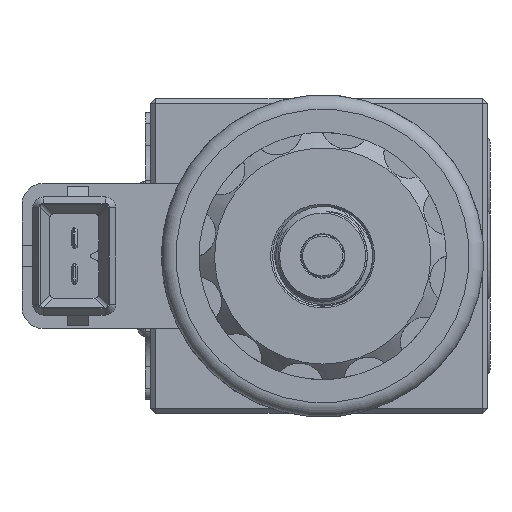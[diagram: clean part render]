
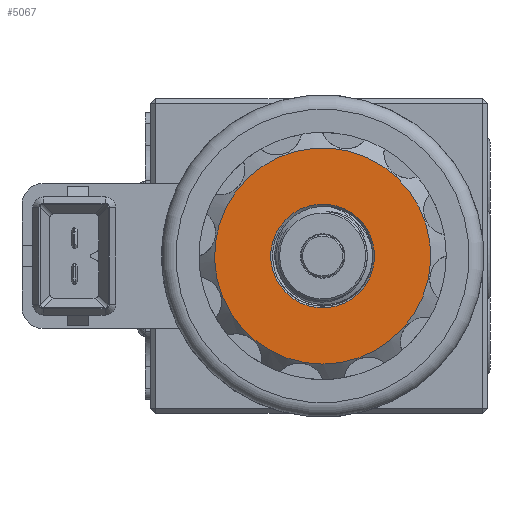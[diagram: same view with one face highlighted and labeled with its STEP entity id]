
A CAD part, left-side view. The second image highlights one B-rep face of the part: STEP entity #5067.
In plain terms, the highlighted planar face has unit normal (-1, 0, 0).
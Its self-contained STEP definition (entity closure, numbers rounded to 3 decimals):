
#1015=CIRCLE('',#26219,15.1);
#1029=CIRCLE('',#26234,7.25);
#1608=FACE_BOUND('',#8514,.T.);
#1609=FACE_BOUND('',#8515,.T.);
#5067=ADVANCED_FACE('',(#1608,#1609),#6181,.T.);
#6181=PLANE('',#26236);
#8514=EDGE_LOOP('',(#13829));
#8515=EDGE_LOOP('',(#13830));
#13829=ORIENTED_EDGE('',*,*,#19847,.F.);
#13830=ORIENTED_EDGE('',*,*,#19819,.T.);
#16909=VERTEX_POINT('',#39789);
#16936=VERTEX_POINT('',#39975);
#19819=EDGE_CURVE('',#16909,#16909,#1015,.T.);
#19847=EDGE_CURVE('',#16936,#16936,#1029,.T.);
#26219=AXIS2_PLACEMENT_3D('',#39788,#31310,#31311);
#26234=AXIS2_PLACEMENT_3D('',#39974,#31340,#31341);
#26236=AXIS2_PLACEMENT_3D('',#39977,#31344,#31345);
#31310=DIRECTION('',(-1.,0.,0.));
#31311=DIRECTION('',(0.,0.087,0.996));
#31340=DIRECTION('',(-1.,0.,0.));
#31341=DIRECTION('',(0.,0.087,0.996));
#31344=DIRECTION('',(-1.,0.,0.));
#31345=DIRECTION('',(0.,0.087,0.996));
#39788=CARTESIAN_POINT('',(34.226,171.761,0.));
#39789=CARTESIAN_POINT('',(34.226,173.077,15.043));
#39974=CARTESIAN_POINT('',(34.226,171.761,0.));
#39975=CARTESIAN_POINT('',(34.226,172.393,7.222));
#39977=CARTESIAN_POINT('',(34.226,184.562,-1.12));
